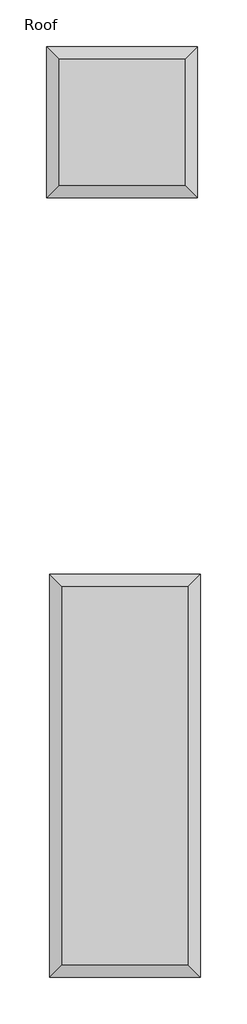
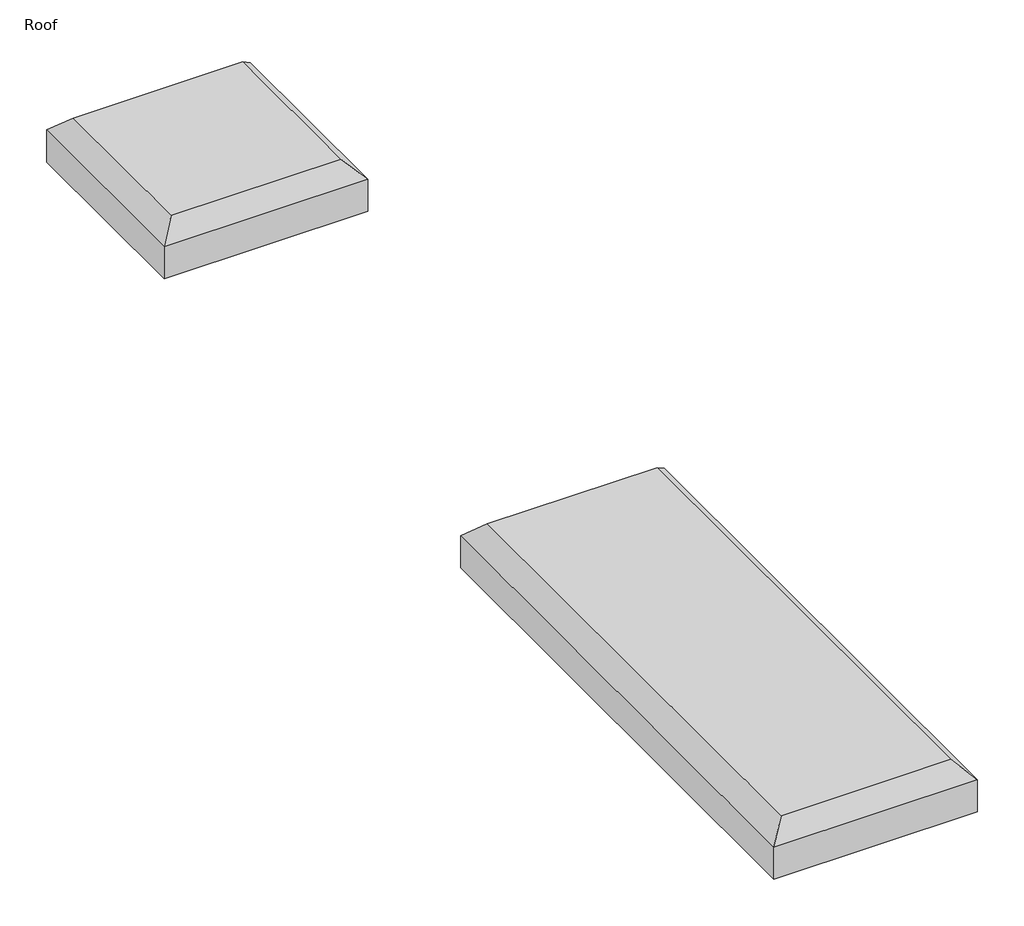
# One storey: 2 proxies.
"""IFC4 building model written with IfcOpenShell, lengths in millimetres."""

from ifc_helpers import new_model, si_unit, origin, place, context, project, spatial, transform, mapped, element, save
from components import chimney_no_cap_1_chimney_pot_no_cap_27f6cb3c, chimney_no_cap_1_chimney_pot_no_cap_fb59864e

model = new_model("IFC4")

# Units and contexts
model_context = context("Model", 3, world=origin())
ifc_project = project(units=[si_unit("LENGTHUNIT", "METRE", prefix="MILLI")], contexts=[model_context])

# Site, building, storey
site = spatial("IfcSite", under=ifc_project)
building = spatial("IfcBuilding", under=site)
storey = spatial("IfcBuildingStorey", under=building, Name="Roof", Elevation=4106.1476202)

# Proxies
placement = place(None, origin())
chimney_no_cap_1_chimney_pot_no_cap_shape = chimney_no_cap_1_chimney_pot_no_cap_27f6cb3c(model_context)
element("IfcBuildingElementProxy", 1, Name="Chimney no cap : 1 Chimney Pot No cap", ObjectType="Chimney no cap : 1 Chimney Pot No cap", at=placement, inside=storey, context=model_context, shape_type="MappedRepresentation", body=[
    mapped(chimney_no_cap_1_chimney_pot_no_cap_shape, transform((-1112.1255931, 5111.75, 3911.6), x_axis=(0.0, -1.0, 0.0), y_axis=(1.0, 0.0, 0.0), z_axis=(0.0, 0.0, 1.0))),
])
chimney_no_cap_1_chimney_pot_no_cap_2_shape = chimney_no_cap_1_chimney_pot_no_cap_fb59864e(model_context)
element("IfcBuildingElementProxy", 2, Name="Chimney no cap : 1 Chimney Pot No cap", ObjectType="Chimney no cap : 1 Chimney Pot No cap", at=placement, inside=storey, context=model_context, shape_type="MappedRepresentation", body=[
    mapped(chimney_no_cap_1_chimney_pot_no_cap_2_shape, transform((-1099.4255931, 2476.8061456, 3911.6), x_axis=(0.0, 1.0, 0.0), y_axis=(-1.0, 0.0, 0.0), z_axis=(0.0, 0.0, 1.0))),
])

save(model, "model.ifc")
